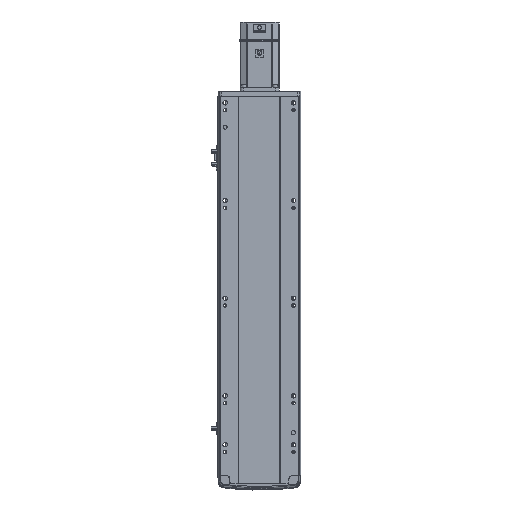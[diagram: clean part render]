
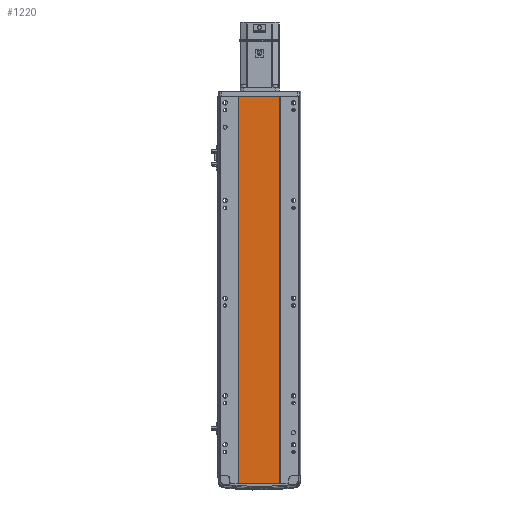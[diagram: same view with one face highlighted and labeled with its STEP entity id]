
A CAD part, front view. The second image highlights one B-rep face of the part: STEP entity #1220.
In plain terms, the highlighted planar face has unit normal (0, -1, 0).
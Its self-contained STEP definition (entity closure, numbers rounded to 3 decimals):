
#189 = VECTOR ( 'NONE', #43892, 1000. ) ;
#1220 = ADVANCED_FACE ( 'NONE', ( #37990 ), #25431, .F. ) ;
#1292 = DIRECTION ( 'NONE',  ( 0., 1., 0. ) ) ;
#3222 = CARTESIAN_POINT ( 'NONE',  ( 41.793, 0.998, 793.5 ) ) ;
#3304 = CARTESIAN_POINT ( 'NONE',  ( 41.793, 0.998, 0. ) ) ;
#4670 = ORIENTED_EDGE ( 'NONE', *, *, #7633, .T. ) ;
#6137 = CARTESIAN_POINT ( 'NONE',  ( -41.791, 1., 793.5 ) ) ;
#7633 = EDGE_CURVE ( 'NONE', #19979, #37759, #11540, .T. ) ;
#8254 = EDGE_CURVE ( 'NONE', #11831, #19979, #11100, .T. ) ;
#10347 = DIRECTION ( 'NONE',  ( 1., 0., 0. ) ) ;
#11100 = LINE ( 'NONE', #6137, #46427 ) ;
#11540 = LINE ( 'NONE', #31884, #189 ) ;
#11806 = AXIS2_PLACEMENT_3D ( 'NONE', #17322, #1292, #41878 ) ;
#11831 = VERTEX_POINT ( 'NONE', #31542 ) ;
#14279 = VERTEX_POINT ( 'NONE', #3222 ) ;
#14731 = DIRECTION ( 'NONE',  ( 0., 0., -1. ) ) ;
#16952 = EDGE_CURVE ( 'NONE', #14279, #37759, #41169, .T. ) ;
#17322 = CARTESIAN_POINT ( 'NONE',  ( 0., 0.999, 793.5 ) ) ;
#17604 = ORIENTED_EDGE ( 'NONE', *, *, #8254, .T. ) ;
#19013 = VECTOR ( 'NONE', #38209, 1000. ) ;
#19393 = VECTOR ( 'NONE', #10347, 1000. ) ;
#19979 = VERTEX_POINT ( 'NONE', #34676 ) ;
#25431 = PLANE ( 'NONE',  #11806 ) ;
#27522 = ORIENTED_EDGE ( 'NONE', *, *, #41492, .F. ) ;
#29301 = ORIENTED_EDGE ( 'NONE', *, *, #16952, .F. ) ;
#31542 = CARTESIAN_POINT ( 'NONE',  ( -41.791, 1., 793.5 ) ) ;
#31884 = CARTESIAN_POINT ( 'NONE',  ( 0., 0.999, 0. ) ) ;
#34676 = CARTESIAN_POINT ( 'NONE',  ( -41.791, 1., 0. ) ) ;
#35237 = CARTESIAN_POINT ( 'NONE',  ( 0., 0.999, 793.5 ) ) ;
#37759 = VERTEX_POINT ( 'NONE', #3304 ) ;
#37990 = FACE_OUTER_BOUND ( 'NONE', #41646, .T. ) ;
#38209 = DIRECTION ( 'NONE',  ( 0., 0., -1. ) ) ;
#41169 = LINE ( 'NONE', #45946, #19013 ) ;
#41492 = EDGE_CURVE ( 'NONE', #11831, #14279, #48467, .T. ) ;
#41646 = EDGE_LOOP ( 'NONE', ( #4670, #29301, #27522, #17604 ) ) ;
#41878 = DIRECTION ( 'NONE',  ( -1., 0., 0. ) ) ;
#43892 = DIRECTION ( 'NONE',  ( 1., 0., 0. ) ) ;
#45946 = CARTESIAN_POINT ( 'NONE',  ( 41.793, 0.998, 793.5 ) ) ;
#46427 = VECTOR ( 'NONE', #14731, 1000. ) ;
#48467 = LINE ( 'NONE', #35237, #19393 ) ;
